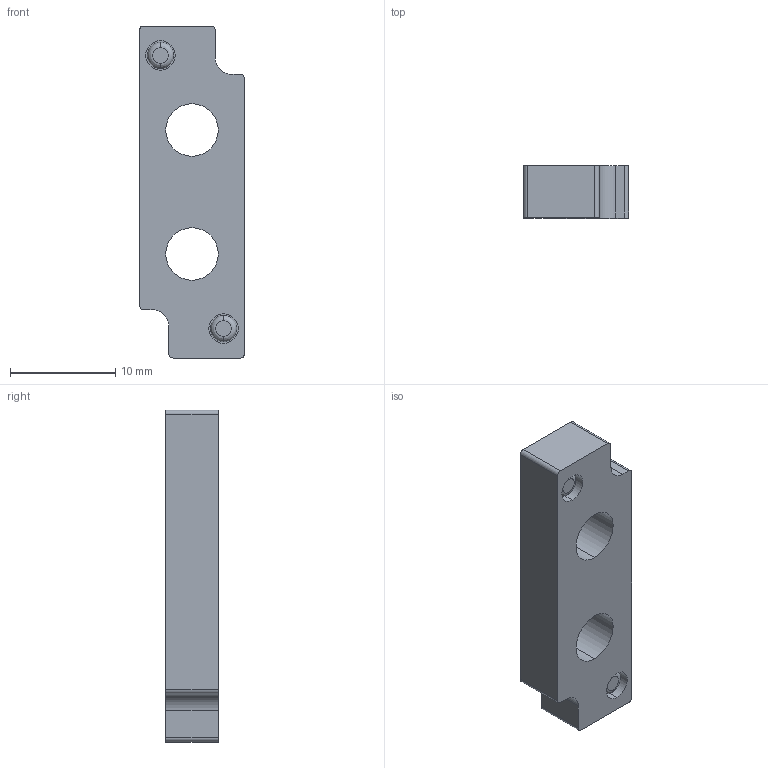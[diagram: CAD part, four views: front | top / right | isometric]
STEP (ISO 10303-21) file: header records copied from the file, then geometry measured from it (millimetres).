
FILE_DESCRIPTION( (''), '2;1');
FILE_NAME ('CVICAD02.14868.F10_Port-FM_4634.stp','2020-09-01T14:04:18',(''),(''),'spGate 12.6.6','','');
FILE_SCHEMA (('AUTOMOTIVE_DESIGN'));
Length unit declared in the file: millimetre
Bounding box: 10 x 5 x 31.6 mm (x, y, z)
Volume: 1251.1 mm3; surface area: 1086.7 mm2
Topology: 1 solids, 1 shells, 34 faces, 86 edges, 58 vertices
Faces by surface type: cylinder 16, plane 14, bspline 4
Entity records: 1837 total; most frequent: CARTESIAN_POINT 292, DIRECTION 176, ORIENTED_EDGE 172, COLOUR_RGB 121, PRESENTATION_STYLE_ASSIGNMENT 121, STYLED_ITEM 121, EDGE_CURVE 86, DRAUGHTING_PRE_DEFINED_CURVE_FONT 86
